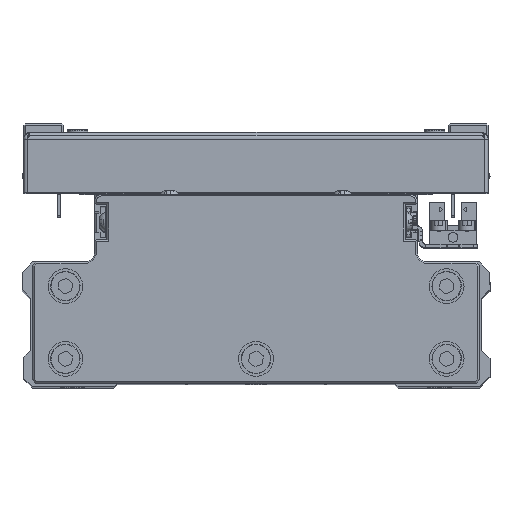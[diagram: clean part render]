
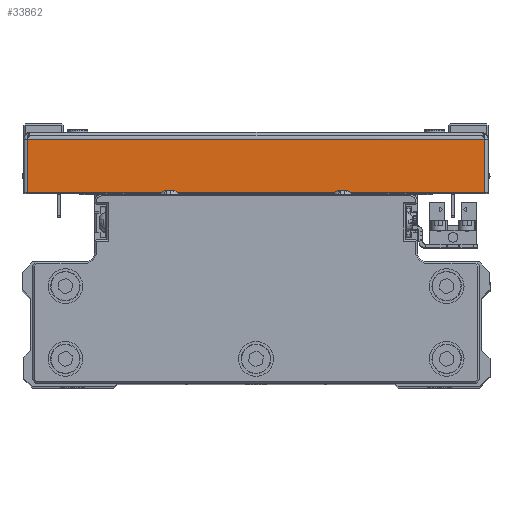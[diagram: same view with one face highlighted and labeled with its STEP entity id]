
A CAD part, top view. The second image highlights one B-rep face of the part: STEP entity #33862.
In plain terms, the highlighted planar face has unit normal (0, 0, 1) as drawn and (1, 0, 0) by its records, which use the part's own axes.
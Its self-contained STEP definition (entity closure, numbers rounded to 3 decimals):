
#368 = CARTESIAN_POINT ( 'NONE',  ( 75., 0., 0. ) ) ;
#1475 = VERTEX_POINT ( 'NONE', #16863 ) ;
#1844 = EDGE_CURVE ( 'NONE', #8222, #9561, #22692, .T. ) ;
#2509 = CARTESIAN_POINT ( 'NONE',  ( 75., 1., 67. ) ) ;
#2577 = VERTEX_POINT ( 'NONE', #5224 ) ;
#2685 = ORIENTED_EDGE ( 'NONE', *, *, #34630, .T. ) ;
#5224 = CARTESIAN_POINT ( 'NONE',  ( 75., 1., 65.929 ) ) ;
#6046 = CARTESIAN_POINT ( 'NONE',  ( 75., 0., 65.929 ) ) ;
#6170 = DIRECTION ( 'NONE',  ( 0., 1., 0. ) ) ;
#6760 = VECTOR ( 'NONE', #6170, 1000. ) ;
#7863 = CARTESIAN_POINT ( 'NONE',  ( 75., 16.5, -65.929 ) ) ;
#8222 = VERTEX_POINT ( 'NONE', #42878 ) ;
#9561 = VERTEX_POINT ( 'NONE', #7863 ) ;
#10248 = CARTESIAN_POINT ( 'NONE',  ( 75., 16.5, 0. ) ) ;
#13616 = DIRECTION ( 'NONE',  ( -1., 0., 0. ) ) ;
#15610 = ORIENTED_EDGE ( 'NONE', *, *, #32641, .F. ) ;
#15771 = DIRECTION ( 'NONE',  ( 0., 0., 1. ) ) ;
#16863 = CARTESIAN_POINT ( 'NONE',  ( 75., 16.5, 65.929 ) ) ;
#16884 = FACE_OUTER_BOUND ( 'NONE', #23903, .T. ) ;
#18027 = VECTOR ( 'NONE', #19305, 1000. ) ;
#19305 = DIRECTION ( 'NONE',  ( 0., 1., 0. ) ) ;
#22692 = LINE ( 'NONE', #35932, #6760 ) ;
#23375 = AXIS2_PLACEMENT_3D ( 'NONE', #368, #13616, #26838 ) ;
#23496 = DIRECTION ( 'NONE',  ( 0., 0., 1. ) ) ;
#23903 = EDGE_LOOP ( 'NONE', ( #15610, #33584, #2685, #36875 ) ) ;
#25817 = EDGE_CURVE ( 'NONE', #2577, #1475, #35802, .T. ) ;
#26838 = DIRECTION ( 'NONE',  ( 0., -1., 0. ) ) ;
#29656 = VECTOR ( 'NONE', #23496, 1000. ) ;
#30106 = PLANE ( 'NONE',  #23375 ) ;
#31447 = VECTOR ( 'NONE', #15771, 1000. ) ;
#32268 = LINE ( 'NONE', #2509, #31447 ) ;
#32641 = EDGE_CURVE ( 'NONE', #8222, #2577, #32268, .T. ) ;
#33584 = ORIENTED_EDGE ( 'NONE', *, *, #1844, .T. ) ;
#33862 = ADVANCED_FACE ( 'NONE', ( #16884 ), #30106, .F. ) ;
#34630 = EDGE_CURVE ( 'NONE', #9561, #1475, #40028, .T. ) ;
#35802 = LINE ( 'NONE', #6046, #18027 ) ;
#35932 = CARTESIAN_POINT ( 'NONE',  ( 75., 0., -65.929 ) ) ;
#36875 = ORIENTED_EDGE ( 'NONE', *, *, #25817, .F. ) ;
#40028 = LINE ( 'NONE', #10248, #29656 ) ;
#42878 = CARTESIAN_POINT ( 'NONE',  ( 75., 1., -65.929 ) ) ;
